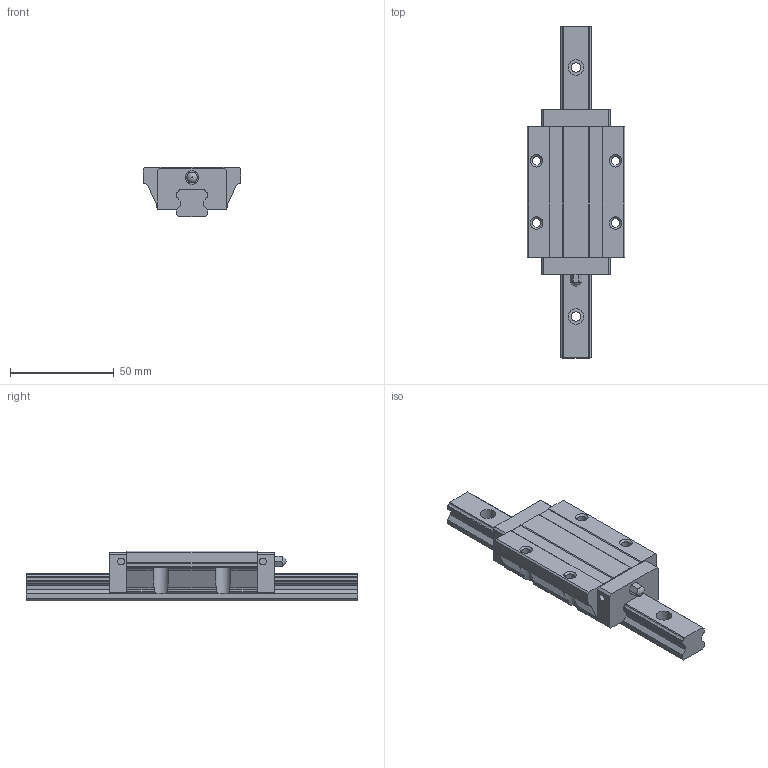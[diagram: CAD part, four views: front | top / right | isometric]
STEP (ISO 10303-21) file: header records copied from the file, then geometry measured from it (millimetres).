
FILE_DESCRIPTION(/* description */ (''),/* implementation_level */ '2;1');
FILE_NAME(/* name */ 'SME15-LEA',/* time_stamp */ '2009-06-12T14:02:33+08:00',/* author */ (''),/* organization */ (''),/* preprocessor_version */ 'ST-DEVELOPER v11',/* originating_system */ 'UGS - NX 5.0',/* authorisation */ '');
FILE_SCHEMA (('CONFIG_CONTROL_DESIGN'));
Length unit declared in the file: millimetre
Products named in the file (1): jill3C1A4211
Bounding box: 47 x 160 x 24 mm (x, y, z)
Volume: 79155.2 mm3; surface area: 23900 mm2
Topology: 2 solids, 3 shells, 178 faces, 492 edges, 328 vertices
Faces by surface type: plane 108, cylinder 62, cone 4, sphere 2, bspline 2
Full cylindrical faces by diameter (mm): 3.3 x4, 4 x7, 4.2 x4, 4.5 x3, 6.5 x2, 7.5 x3
Entity records: 7204 total; most frequent: CARTESIAN_POINT 2765, DIRECTION 904, ORIENTED_EDGE 880, EDGE_CURVE 440, AXIS2_PLACEMENT_3D 309, VERTEX_POINT 306, LINE 286, VECTOR 286
